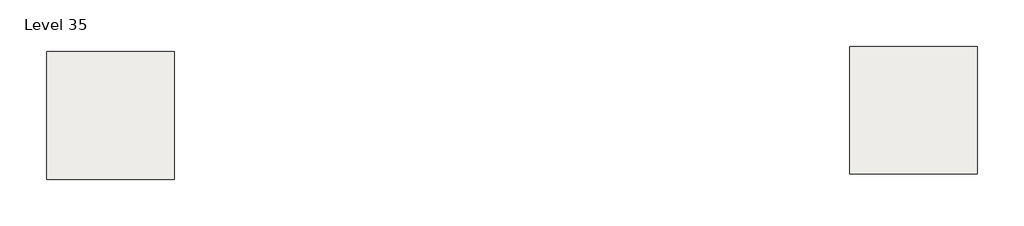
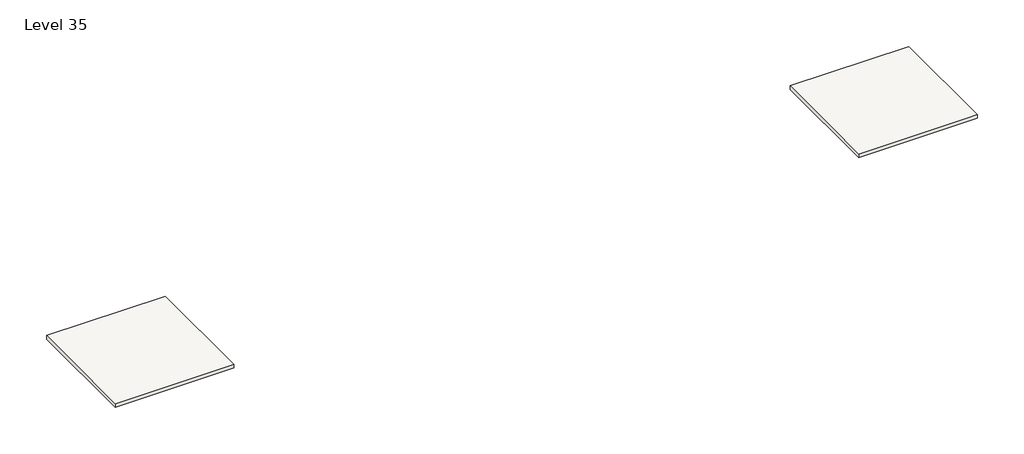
# One storey: 2 slabs.
"""IFC4 building model written with IfcOpenShell, lengths in millimetres."""

from ifc_helpers import new_model, si_unit, frame, origin, place, context, project, spatial, polyline, outline, extrude, element, save

model = new_model("IFC4")

# Units and contexts
model_context = context("Model", 3, world=origin())
ifc_project = project(units=[si_unit("LENGTHUNIT", "METRE", prefix="MILLI")], contexts=[model_context])

# Site, building, storey
site = spatial("IfcSite", under=ifc_project)
building = spatial("IfcBuilding", under=site)
storey = spatial("IfcBuildingStorey", under=building, Name="Level 35", Elevation=103632.0)

# Slabs
placement = place(None, origin())
element("IfcSlab", 1, ObjectType="Generic - 12\"", at=placement, inside=storey, context=model_context, shape_type="SweptSolid", body=[
    extrude(outline(polyline([(-8641.8488996, 6449.9495511), (-8641.8488996, -2694.0504489), (-17785.8488996, -2694.0504489), (-17785.8488996, 6449.9495511), (-8641.8488996, 6449.9495511)])), frame((0.0, 0.0, 103327.2), z_axis=(0.0, 0.0, 1.0), x_axis=(1.0, 0.0, 0.0)), (0.0, 0.0, 1.0), 304.8),
])
element("IfcSlab", 2, ObjectType="Generic - 12\"", at=placement, inside=storey, context=model_context, shape_type="SweptSolid", body=[
    extrude(outline(polyline([(48791.8576677, 6827.0904402), (48791.8576677, -2316.9095598), (39647.8576677, -2316.9095598), (39647.8576677, 6827.0904402), (48791.8576677, 6827.0904402)])), frame((0.0, 0.0, 103327.2), z_axis=(0.0, 0.0, 1.0), x_axis=(1.0, 0.0, 0.0)), (0.0, 0.0, 1.0), 304.8),
])

save(model, "model.ifc")
